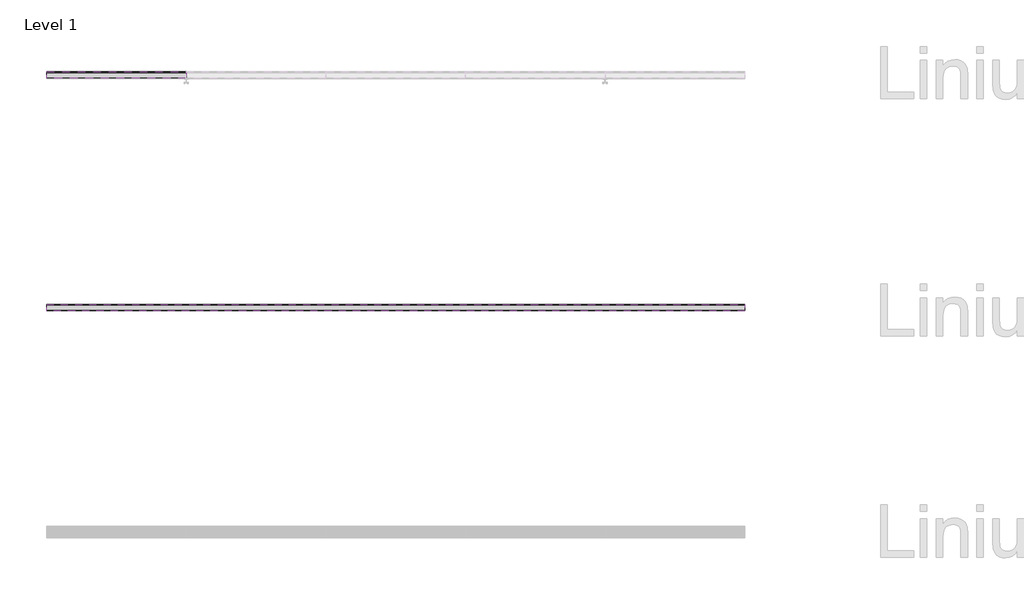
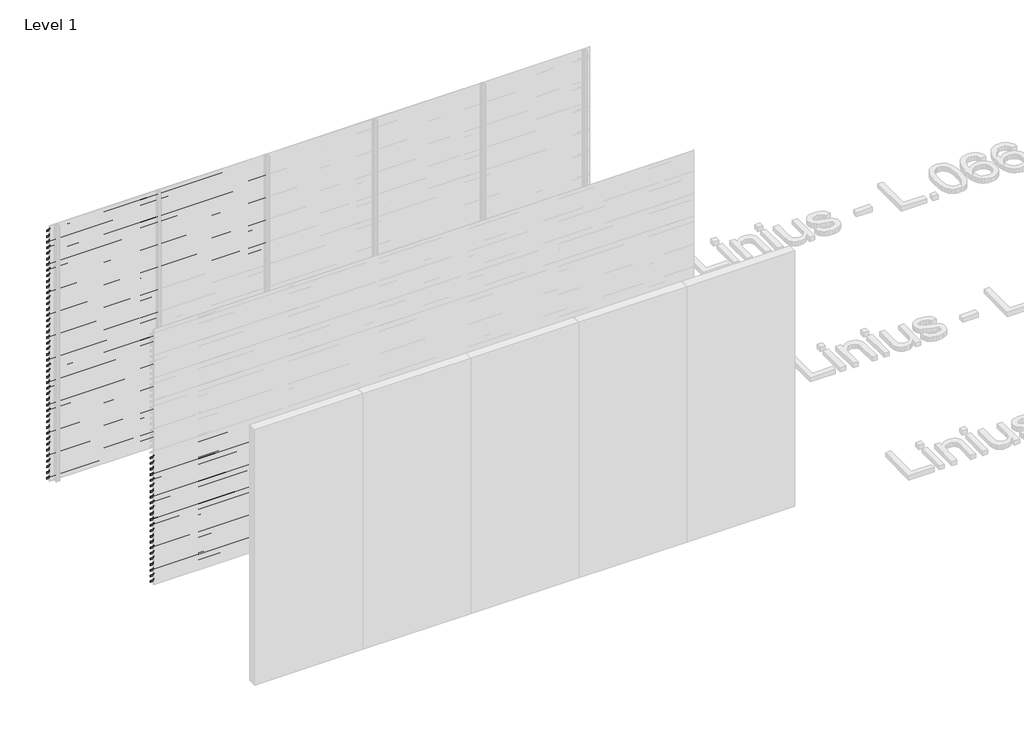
# One storey, part 31 of 540: 85 proxies.
"""IFC4 building model written with IfcOpenShell, lengths in millimetres."""

from ifc_helpers import new_model, si_unit, frame, origin, place, context, project, spatial, polyline, outline, extrude, element, save

model = new_model("IFC4")

# Units and contexts
model_context = context("Model", 3, world=origin())
ifc_project = project(units=[si_unit("LENGTHUNIT", "METRE", prefix="MILLI")], contexts=[model_context])

# Site, building, storey
site = spatial("IfcSite", under=ifc_project)
building = spatial("IfcBuilding", under=site)
storey = spatial("IfcBuildingStorey", under=building, Name="Level 1", Elevation=0.0)

# Proxies
placement = place(None, origin())
element("IfcBuildingElementProxy", 1, Name="Wall Sweeps", at=placement, inside=storey, context=model_context, shape_type="SweptSolid", body=[
    extrude(outline(polyline([(21581.0540136, 2913.5), (21581.0540136, 2893.5), (21579.8040136, 2894.2216933), (21579.8040136, 2912.7872415), (21526.0540136, 2950.3158044), (21526.0540136, 2970.0), (21527.3040136, 2970.0), (21527.3040136, 2951.0285629), (21581.0540136, 2913.5)])), frame((466.6208097, 0.0, 0.0), z_axis=(1.0, 0.0, 0.0), x_axis=(0.0, 1.0, 0.0)), (0.0, 0.0, 1.0), 1200.0000002),
])
element("IfcBuildingElementProxy", 2, Name="Wall Sweeps", at=placement, inside=storey, context=model_context, shape_type="SweptSolid", body=[
    extrude(outline(polyline([(21581.0540136, 2847.5), (21581.0540136, 2827.5), (21579.8040136, 2828.2216933), (21579.8040136, 2846.7872415), (21526.0540136, 2884.3158044), (21526.0540136, 2904.0), (21527.3040136, 2904.0), (21527.3040136, 2885.0285629), (21581.0540136, 2847.5)])), frame((466.6208097, 0.0, 0.0), z_axis=(1.0, 0.0, 0.0), x_axis=(0.0, 1.0, 0.0)), (0.0, 0.0, 1.0), 1200.0000002),
])
element("IfcBuildingElementProxy", 3, Name="Wall Sweeps", at=placement, inside=storey, context=model_context, shape_type="SweptSolid", body=[
    extrude(outline(polyline([(21581.0540136, 2781.5), (21581.0540136, 2761.5), (21579.8040136, 2762.2216933), (21579.8040136, 2780.7872415), (21526.0540136, 2818.3158044), (21526.0540136, 2838.0), (21527.3040136, 2838.0), (21527.3040136, 2819.0285629), (21581.0540136, 2781.5)])), frame((466.6208097, 0.0, 0.0), z_axis=(1.0, 0.0, 0.0), x_axis=(0.0, 1.0, 0.0)), (0.0, 0.0, 1.0), 1200.0000002),
])
element("IfcBuildingElementProxy", 4, Name="Wall Sweeps", at=placement, inside=storey, context=model_context, shape_type="SweptSolid", body=[
    extrude(outline(polyline([(21581.0540136, 2715.5), (21581.0540136, 2695.5), (21579.8040136, 2696.2216933), (21579.8040136, 2714.7872415), (21526.0540136, 2752.3158044), (21526.0540136, 2772.0), (21527.3040136, 2772.0), (21527.3040136, 2753.0285629), (21581.0540136, 2715.5)])), frame((466.6208097, 0.0, 0.0), z_axis=(1.0, 0.0, 0.0), x_axis=(0.0, 1.0, 0.0)), (0.0, 0.0, 1.0), 1200.0000002),
])
element("IfcBuildingElementProxy", 5, Name="Wall Sweeps", at=placement, inside=storey, context=model_context, shape_type="SweptSolid", body=[
    extrude(outline(polyline([(21581.0540136, 2649.5), (21581.0540136, 2629.5), (21579.8040136, 2630.2216933), (21579.8040136, 2648.7872415), (21526.0540136, 2686.3158044), (21526.0540136, 2706.0), (21527.3040136, 2706.0), (21527.3040136, 2687.0285629), (21581.0540136, 2649.5)])), frame((466.6208097, 0.0, 0.0), z_axis=(1.0, 0.0, 0.0), x_axis=(0.0, 1.0, 0.0)), (0.0, 0.0, 1.0), 1200.0000002),
])
element("IfcBuildingElementProxy", 6, Name="Wall Sweeps", at=placement, inside=storey, context=model_context, shape_type="SweptSolid", body=[
    extrude(outline(polyline([(21581.0540136, 2583.5), (21581.0540136, 2563.5), (21579.8040136, 2564.2216933), (21579.8040136, 2582.7872415), (21526.0540136, 2620.3158044), (21526.0540136, 2640.0), (21527.3040136, 2640.0), (21527.3040136, 2621.0285629), (21581.0540136, 2583.5)])), frame((466.6208097, 0.0, 0.0), z_axis=(1.0, 0.0, 0.0), x_axis=(0.0, 1.0, 0.0)), (0.0, 0.0, 1.0), 1200.0000002),
])
element("IfcBuildingElementProxy", 7, Name="Wall Sweeps", at=placement, inside=storey, context=model_context, shape_type="SweptSolid", body=[
    extrude(outline(polyline([(21581.0540136, 2517.5), (21581.0540136, 2497.5), (21579.8040136, 2498.2216933), (21579.8040136, 2516.7872415), (21526.0540136, 2554.3158044), (21526.0540136, 2574.0), (21527.3040136, 2574.0), (21527.3040136, 2555.0285629), (21581.0540136, 2517.5)])), frame((466.6208097, 0.0, 0.0), z_axis=(1.0, 0.0, 0.0), x_axis=(0.0, 1.0, 0.0)), (0.0, 0.0, 1.0), 1200.0000002),
])
element("IfcBuildingElementProxy", 8, Name="Wall Sweeps", at=placement, inside=storey, context=model_context, shape_type="SweptSolid", body=[
    extrude(outline(polyline([(21581.0540136, 2451.5), (21581.0540136, 2431.5), (21579.8040136, 2432.2216933), (21579.8040136, 2450.7872415), (21526.0540136, 2488.3158044), (21526.0540136, 2508.0), (21527.3040136, 2508.0), (21527.3040136, 2489.0285629), (21581.0540136, 2451.5)])), frame((466.6208097, 0.0, 0.0), z_axis=(1.0, 0.0, 0.0), x_axis=(0.0, 1.0, 0.0)), (0.0, 0.0, 1.0), 1200.0000002),
])
element("IfcBuildingElementProxy", 9, Name="Wall Sweeps", at=placement, inside=storey, context=model_context, shape_type="SweptSolid", body=[
    extrude(outline(polyline([(21581.0540136, 2385.5), (21581.0540136, 2365.5), (21579.8040136, 2366.2216933), (21579.8040136, 2384.7872415), (21526.0540136, 2422.3158044), (21526.0540136, 2442.0), (21527.3040136, 2442.0), (21527.3040136, 2423.0285629), (21581.0540136, 2385.5)])), frame((466.6208097, 0.0, 0.0), z_axis=(1.0, 0.0, 0.0), x_axis=(0.0, 1.0, 0.0)), (0.0, 0.0, 1.0), 1200.0000002),
])
element("IfcBuildingElementProxy", 10, Name="Wall Sweeps", at=placement, inside=storey, context=model_context, shape_type="SweptSolid", body=[
    extrude(outline(polyline([(21581.0540136, 2319.5), (21581.0540136, 2299.5), (21579.8040136, 2300.2216933), (21579.8040136, 2318.7872415), (21526.0540136, 2356.3158044), (21526.0540136, 2376.0), (21527.3040136, 2376.0), (21527.3040136, 2357.0285629), (21581.0540136, 2319.5)])), frame((466.6208097, 0.0, 0.0), z_axis=(1.0, 0.0, 0.0), x_axis=(0.0, 1.0, 0.0)), (0.0, 0.0, 1.0), 1200.0000002),
])
element("IfcBuildingElementProxy", 11, Name="Wall Sweeps", at=placement, inside=storey, context=model_context, shape_type="SweptSolid", body=[
    extrude(outline(polyline([(21581.0540136, 2253.5), (21581.0540136, 2233.5), (21579.8040136, 2234.2216933), (21579.8040136, 2252.7872415), (21526.0540136, 2290.3158044), (21526.0540136, 2310.0), (21527.3040136, 2310.0), (21527.3040136, 2291.0285629), (21581.0540136, 2253.5)])), frame((466.6208097, 0.0, 0.0), z_axis=(1.0, 0.0, 0.0), x_axis=(0.0, 1.0, 0.0)), (0.0, 0.0, 1.0), 1200.0000002),
])
element("IfcBuildingElementProxy", 12, Name="Wall Sweeps", at=placement, inside=storey, context=model_context, shape_type="SweptSolid", body=[
    extrude(outline(polyline([(21581.0540136, 2187.5), (21581.0540136, 2167.5), (21579.8040136, 2168.2216933), (21579.8040136, 2186.7872415), (21526.0540136, 2224.3158044), (21526.0540136, 2244.0), (21527.3040136, 2244.0), (21527.3040136, 2225.0285629), (21581.0540136, 2187.5)])), frame((466.6208097, 0.0, 0.0), z_axis=(1.0, 0.0, 0.0), x_axis=(0.0, 1.0, 0.0)), (0.0, 0.0, 1.0), 1200.0000002),
])
element("IfcBuildingElementProxy", 13, Name="Wall Sweeps", at=placement, inside=storey, context=model_context, shape_type="SweptSolid", body=[
    extrude(outline(polyline([(21581.0540136, 2121.5), (21581.0540136, 2101.5), (21579.8040136, 2102.2216933), (21579.8040136, 2120.7872415), (21526.0540136, 2158.3158044), (21526.0540136, 2178.0), (21527.3040136, 2178.0), (21527.3040136, 2159.0285629), (21581.0540136, 2121.5)])), frame((466.6208097, 0.0, 0.0), z_axis=(1.0, 0.0, 0.0), x_axis=(0.0, 1.0, 0.0)), (0.0, 0.0, 1.0), 1200.0000002),
])
element("IfcBuildingElementProxy", 14, Name="Wall Sweeps", at=placement, inside=storey, context=model_context, shape_type="SweptSolid", body=[
    extrude(outline(polyline([(21581.0540136, 2055.5), (21581.0540136, 2035.5), (21579.8040136, 2036.2216933), (21579.8040136, 2054.7872415), (21526.0540136, 2092.3158044), (21526.0540136, 2112.0), (21527.3040136, 2112.0), (21527.3040136, 2093.0285629), (21581.0540136, 2055.5)])), frame((466.6208097, 0.0, 0.0), z_axis=(1.0, 0.0, 0.0), x_axis=(0.0, 1.0, 0.0)), (0.0, 0.0, 1.0), 1200.0000002),
])
element("IfcBuildingElementProxy", 15, Name="Wall Sweeps", at=placement, inside=storey, context=model_context, shape_type="SweptSolid", body=[
    extrude(outline(polyline([(21581.0540136, 1989.5), (21581.0540136, 1969.5), (21579.8040136, 1970.2216933), (21579.8040136, 1988.7872415), (21526.0540136, 2026.3158044), (21526.0540136, 2046.0), (21527.3040136, 2046.0), (21527.3040136, 2027.0285629), (21581.0540136, 1989.5)])), frame((466.6208097, 0.0, 0.0), z_axis=(1.0, 0.0, 0.0), x_axis=(0.0, 1.0, 0.0)), (0.0, 0.0, 1.0), 1200.0000002),
])
element("IfcBuildingElementProxy", 16, Name="Wall Sweeps", at=placement, inside=storey, context=model_context, shape_type="SweptSolid", body=[
    extrude(outline(polyline([(21581.0540136, 1923.5), (21581.0540136, 1903.5), (21579.8040136, 1904.2216933), (21579.8040136, 1922.7872415), (21526.0540136, 1960.3158044), (21526.0540136, 1980.0), (21527.3040136, 1980.0), (21527.3040136, 1961.0285629), (21581.0540136, 1923.5)])), frame((466.6208097, 0.0, 0.0), z_axis=(1.0, 0.0, 0.0), x_axis=(0.0, 1.0, 0.0)), (0.0, 0.0, 1.0), 1200.0000002),
])
element("IfcBuildingElementProxy", 17, Name="Wall Sweeps", at=placement, inside=storey, context=model_context, shape_type="SweptSolid", body=[
    extrude(outline(polyline([(21581.0540136, 1857.5), (21581.0540136, 1837.5), (21579.8040136, 1838.2216933), (21579.8040136, 1856.7872415), (21526.0540136, 1894.3158044), (21526.0540136, 1914.0), (21527.3040136, 1914.0), (21527.3040136, 1895.0285629), (21581.0540136, 1857.5)])), frame((466.6208097, 0.0, 0.0), z_axis=(1.0, 0.0, 0.0), x_axis=(0.0, 1.0, 0.0)), (0.0, 0.0, 1.0), 1200.0000002),
])
element("IfcBuildingElementProxy", 18, Name="Wall Sweeps", at=placement, inside=storey, context=model_context, shape_type="SweptSolid", body=[
    extrude(outline(polyline([(21581.0540136, 1791.5), (21581.0540136, 1771.5), (21579.8040136, 1772.2216933), (21579.8040136, 1790.7872415), (21526.0540136, 1828.3158044), (21526.0540136, 1848.0), (21527.3040136, 1848.0), (21527.3040136, 1829.0285629), (21581.0540136, 1791.5)])), frame((466.6208097, 0.0, 0.0), z_axis=(1.0, 0.0, 0.0), x_axis=(0.0, 1.0, 0.0)), (0.0, 0.0, 1.0), 1200.0000002),
])
element("IfcBuildingElementProxy", 19, Name="Wall Sweeps", at=placement, inside=storey, context=model_context, shape_type="SweptSolid", body=[
    extrude(outline(polyline([(21581.0540136, 1725.5), (21581.0540136, 1705.5), (21579.8040136, 1706.2216933), (21579.8040136, 1724.7872415), (21526.0540136, 1762.3158044), (21526.0540136, 1782.0), (21527.3040136, 1782.0), (21527.3040136, 1763.0285629), (21581.0540136, 1725.5)])), frame((466.6208097, 0.0, 0.0), z_axis=(1.0, 0.0, 0.0), x_axis=(0.0, 1.0, 0.0)), (0.0, 0.0, 1.0), 1200.0000002),
])
element("IfcBuildingElementProxy", 20, Name="Wall Sweeps", at=placement, inside=storey, context=model_context, shape_type="SweptSolid", body=[
    extrude(outline(polyline([(21581.0540136, 1659.5), (21581.0540136, 1639.5), (21579.8040136, 1640.2216933), (21579.8040136, 1658.7872415), (21526.0540136, 1696.3158044), (21526.0540136, 1716.0), (21527.3040136, 1716.0), (21527.3040136, 1697.0285629), (21581.0540136, 1659.5)])), frame((466.6208097, 0.0, 0.0), z_axis=(1.0, 0.0, 0.0), x_axis=(0.0, 1.0, 0.0)), (0.0, 0.0, 1.0), 1200.0000002),
])
element("IfcBuildingElementProxy", 21, Name="Wall Sweeps", at=placement, inside=storey, context=model_context, shape_type="SweptSolid", body=[
    extrude(outline(polyline([(21581.0540136, 1593.5), (21581.0540136, 1573.5), (21579.8040136, 1574.2216933), (21579.8040136, 1592.7872415), (21526.0540136, 1630.3158044), (21526.0540136, 1650.0), (21527.3040136, 1650.0), (21527.3040136, 1631.0285629), (21581.0540136, 1593.5)])), frame((466.6208097, 0.0, 0.0), z_axis=(1.0, 0.0, 0.0), x_axis=(0.0, 1.0, 0.0)), (0.0, 0.0, 1.0), 1200.0000002),
])
element("IfcBuildingElementProxy", 22, Name="Wall Sweeps", at=placement, inside=storey, context=model_context, shape_type="SweptSolid", body=[
    extrude(outline(polyline([(21581.0540136, 1527.5), (21581.0540136, 1507.5), (21579.8040136, 1508.2216933), (21579.8040136, 1526.7872415), (21526.0540136, 1564.3158044), (21526.0540136, 1584.0), (21527.3040136, 1584.0), (21527.3040136, 1565.0285629), (21581.0540136, 1527.5)])), frame((466.6208097, 0.0, 0.0), z_axis=(1.0, 0.0, 0.0), x_axis=(0.0, 1.0, 0.0)), (0.0, 0.0, 1.0), 1200.0000002),
])
element("IfcBuildingElementProxy", 23, Name="Wall Sweeps", at=placement, inside=storey, context=model_context, shape_type="SweptSolid", body=[
    extrude(outline(polyline([(21581.0540136, 1461.5), (21581.0540136, 1441.5), (21579.8040136, 1442.2216933), (21579.8040136, 1460.7872415), (21526.0540136, 1498.3158044), (21526.0540136, 1518.0), (21527.3040136, 1518.0), (21527.3040136, 1499.0285629), (21581.0540136, 1461.5)])), frame((466.6208097, 0.0, 0.0), z_axis=(1.0, 0.0, 0.0), x_axis=(0.0, 1.0, 0.0)), (0.0, 0.0, 1.0), 1200.0000002),
])
element("IfcBuildingElementProxy", 24, Name="Wall Sweeps", at=placement, inside=storey, context=model_context, shape_type="SweptSolid", body=[
    extrude(outline(polyline([(21581.0540136, 1395.5), (21581.0540136, 1375.5), (21579.8040136, 1376.2216933), (21579.8040136, 1394.7872415), (21526.0540136, 1432.3158044), (21526.0540136, 1452.0), (21527.3040136, 1452.0), (21527.3040136, 1433.0285629), (21581.0540136, 1395.5)])), frame((466.6208097, 0.0, 0.0), z_axis=(1.0, 0.0, 0.0), x_axis=(0.0, 1.0, 0.0)), (0.0, 0.0, 1.0), 1200.0000002),
])
element("IfcBuildingElementProxy", 25, Name="Wall Sweeps", at=placement, inside=storey, context=model_context, shape_type="SweptSolid", body=[
    extrude(outline(polyline([(21581.0540136, 1329.5), (21581.0540136, 1309.5), (21579.8040136, 1310.2216933), (21579.8040136, 1328.7872415), (21526.0540136, 1366.3158044), (21526.0540136, 1386.0), (21527.3040136, 1386.0), (21527.3040136, 1367.0285629), (21581.0540136, 1329.5)])), frame((466.6208097, 0.0, 0.0), z_axis=(1.0, 0.0, 0.0), x_axis=(0.0, 1.0, 0.0)), (0.0, 0.0, 1.0), 1200.0000002),
])
element("IfcBuildingElementProxy", 26, Name="Wall Sweeps", at=placement, inside=storey, context=model_context, shape_type="SweptSolid", body=[
    extrude(outline(polyline([(21581.0540136, 1263.5), (21581.0540136, 1243.5), (21579.8040136, 1244.2216933), (21579.8040136, 1262.7872415), (21526.0540136, 1300.3158044), (21526.0540136, 1320.0), (21527.3040136, 1320.0), (21527.3040136, 1301.0285629), (21581.0540136, 1263.5)])), frame((466.6208097, 0.0, 0.0), z_axis=(1.0, 0.0, 0.0), x_axis=(0.0, 1.0, 0.0)), (0.0, 0.0, 1.0), 1200.0000002),
])
element("IfcBuildingElementProxy", 27, Name="Wall Sweeps", at=placement, inside=storey, context=model_context, shape_type="SweptSolid", body=[
    extrude(outline(polyline([(21581.0540136, 1197.5), (21581.0540136, 1177.5), (21579.8040136, 1178.2216933), (21579.8040136, 1196.7872415), (21526.0540136, 1234.3158044), (21526.0540136, 1254.0), (21527.3040136, 1254.0), (21527.3040136, 1235.0285629), (21581.0540136, 1197.5)])), frame((466.6208097, 0.0, 0.0), z_axis=(1.0, 0.0, 0.0), x_axis=(0.0, 1.0, 0.0)), (0.0, 0.0, 1.0), 1200.0000002),
])
element("IfcBuildingElementProxy", 28, Name="Wall Sweeps", at=placement, inside=storey, context=model_context, shape_type="SweptSolid", body=[
    extrude(outline(polyline([(21581.0540136, 1131.5), (21581.0540136, 1111.5), (21579.8040136, 1112.2216933), (21579.8040136, 1130.7872415), (21526.0540136, 1168.3158044), (21526.0540136, 1188.0), (21527.3040136, 1188.0), (21527.3040136, 1169.0285629), (21581.0540136, 1131.5)])), frame((466.6208097, 0.0, 0.0), z_axis=(1.0, 0.0, 0.0), x_axis=(0.0, 1.0, 0.0)), (0.0, 0.0, 1.0), 1200.0000002),
])
element("IfcBuildingElementProxy", 29, Name="Wall Sweeps", at=placement, inside=storey, context=model_context, shape_type="SweptSolid", body=[
    extrude(outline(polyline([(21581.0540136, 1065.5), (21581.0540136, 1045.5), (21579.8040136, 1046.2216933), (21579.8040136, 1064.7872415), (21526.0540136, 1102.3158044), (21526.0540136, 1122.0), (21527.3040136, 1122.0), (21527.3040136, 1103.0285629), (21581.0540136, 1065.5)])), frame((466.6208097, 0.0, 0.0), z_axis=(1.0, 0.0, 0.0), x_axis=(0.0, 1.0, 0.0)), (0.0, 0.0, 1.0), 1200.0000002),
])
element("IfcBuildingElementProxy", 30, Name="Wall Sweeps", at=placement, inside=storey, context=model_context, shape_type="SweptSolid", body=[
    extrude(outline(polyline([(21581.0540136, 999.5), (21581.0540136, 979.5), (21579.8040136, 980.2216933), (21579.8040136, 998.7872415), (21526.0540136, 1036.3158044), (21526.0540136, 1056.0), (21527.3040136, 1056.0), (21527.3040136, 1037.0285629), (21581.0540136, 999.5)])), frame((466.6208097, 0.0, 0.0), z_axis=(1.0, 0.0, 0.0), x_axis=(0.0, 1.0, 0.0)), (0.0, 0.0, 1.0), 1200.0000002),
])
element("IfcBuildingElementProxy", 31, Name="Wall Sweeps", at=placement, inside=storey, context=model_context, shape_type="SweptSolid", body=[
    extrude(outline(polyline([(21581.0540136, 933.5), (21581.0540136, 913.5), (21579.8040136, 914.2216933), (21579.8040136, 932.7872415), (21526.0540136, 970.3158044), (21526.0540136, 990.0), (21527.3040136, 990.0), (21527.3040136, 971.0285629), (21581.0540136, 933.5)])), frame((466.6208097, 0.0, 0.0), z_axis=(1.0, 0.0, 0.0), x_axis=(0.0, 1.0, 0.0)), (0.0, 0.0, 1.0), 1200.0000002),
])
element("IfcBuildingElementProxy", 32, Name="Wall Sweeps", at=placement, inside=storey, context=model_context, shape_type="SweptSolid", body=[
    extrude(outline(polyline([(21581.0540136, 867.5), (21581.0540136, 847.5), (21579.8040136, 848.2216933), (21579.8040136, 866.7872415), (21526.0540136, 904.3158044), (21526.0540136, 924.0), (21527.3040136, 924.0), (21527.3040136, 905.0285629), (21581.0540136, 867.5)])), frame((466.6208097, 0.0, 0.0), z_axis=(1.0, 0.0, 0.0), x_axis=(0.0, 1.0, 0.0)), (0.0, 0.0, 1.0), 1200.0000002),
])
element("IfcBuildingElementProxy", 33, Name="Wall Sweeps", at=placement, inside=storey, context=model_context, shape_type="SweptSolid", body=[
    extrude(outline(polyline([(21581.0540136, 801.5), (21581.0540136, 781.5), (21579.8040136, 782.2216933), (21579.8040136, 800.7872415), (21526.0540136, 838.3158044), (21526.0540136, 858.0), (21527.3040136, 858.0), (21527.3040136, 839.0285629), (21581.0540136, 801.5)])), frame((466.6208097, 0.0, 0.0), z_axis=(1.0, 0.0, 0.0), x_axis=(0.0, 1.0, 0.0)), (0.0, 0.0, 1.0), 1200.0000002),
])
element("IfcBuildingElementProxy", 34, Name="Wall Sweeps", at=placement, inside=storey, context=model_context, shape_type="SweptSolid", body=[
    extrude(outline(polyline([(21581.0540136, 735.5), (21581.0540136, 715.5), (21579.8040136, 716.2216933), (21579.8040136, 734.7872415), (21526.0540136, 772.3158044), (21526.0540136, 792.0), (21527.3040136, 792.0), (21527.3040136, 773.0285629), (21581.0540136, 735.5)])), frame((466.6208097, 0.0, 0.0), z_axis=(1.0, 0.0, 0.0), x_axis=(0.0, 1.0, 0.0)), (0.0, 0.0, 1.0), 1200.0000002),
])
element("IfcBuildingElementProxy", 35, Name="Wall Sweeps", at=placement, inside=storey, context=model_context, shape_type="SweptSolid", body=[
    extrude(outline(polyline([(21581.0540136, 669.5), (21581.0540136, 649.5), (21579.8040136, 650.2216933), (21579.8040136, 668.7872415), (21526.0540136, 706.3158044), (21526.0540136, 726.0), (21527.3040136, 726.0), (21527.3040136, 707.0285629), (21581.0540136, 669.5)])), frame((466.6208097, 0.0, 0.0), z_axis=(1.0, 0.0, 0.0), x_axis=(0.0, 1.0, 0.0)), (0.0, 0.0, 1.0), 1200.0000002),
])
element("IfcBuildingElementProxy", 36, Name="Wall Sweeps", at=placement, inside=storey, context=model_context, shape_type="SweptSolid", body=[
    extrude(outline(polyline([(21581.0540136, 603.5), (21581.0540136, 583.5), (21579.8040136, 584.2216933), (21579.8040136, 602.7872415), (21526.0540136, 640.3158044), (21526.0540136, 660.0), (21527.3040136, 660.0), (21527.3040136, 641.0285629), (21581.0540136, 603.5)])), frame((466.6208097, 0.0, 0.0), z_axis=(1.0, 0.0, 0.0), x_axis=(0.0, 1.0, 0.0)), (0.0, 0.0, 1.0), 1200.0000002),
])
element("IfcBuildingElementProxy", 37, Name="Wall Sweeps", at=placement, inside=storey, context=model_context, shape_type="SweptSolid", body=[
    extrude(outline(polyline([(21581.0540136, 537.5), (21581.0540136, 517.5), (21579.8040136, 518.2216933), (21579.8040136, 536.7872415), (21526.0540136, 574.3158044), (21526.0540136, 594.0), (21527.3040136, 594.0), (21527.3040136, 575.0285629), (21581.0540136, 537.5)])), frame((466.6208097, 0.0, 0.0), z_axis=(1.0, 0.0, 0.0), x_axis=(0.0, 1.0, 0.0)), (0.0, 0.0, 1.0), 1200.0000002),
])
element("IfcBuildingElementProxy", 38, Name="Wall Sweeps", at=placement, inside=storey, context=model_context, shape_type="SweptSolid", body=[
    extrude(outline(polyline([(21581.0540136, 471.5), (21581.0540136, 451.5), (21579.8040136, 452.2216933), (21579.8040136, 470.7872415), (21526.0540136, 508.3158044), (21526.0540136, 528.0), (21527.3040136, 528.0), (21527.3040136, 509.0285629), (21581.0540136, 471.5)])), frame((466.6208097, 0.0, 0.0), z_axis=(1.0, 0.0, 0.0), x_axis=(0.0, 1.0, 0.0)), (0.0, 0.0, 1.0), 1200.0000002),
])
element("IfcBuildingElementProxy", 39, Name="Wall Sweeps", at=placement, inside=storey, context=model_context, shape_type="SweptSolid", body=[
    extrude(outline(polyline([(21581.0540136, 405.5), (21581.0540136, 385.5), (21579.8040136, 386.2216933), (21579.8040136, 404.7872415), (21526.0540136, 442.3158044), (21526.0540136, 462.0), (21527.3040136, 462.0), (21527.3040136, 443.0285629), (21581.0540136, 405.5)])), frame((466.6208097, 0.0, 0.0), z_axis=(1.0, 0.0, 0.0), x_axis=(0.0, 1.0, 0.0)), (0.0, 0.0, 1.0), 1200.0000002),
])
element("IfcBuildingElementProxy", 40, Name="Wall Sweeps", at=placement, inside=storey, context=model_context, shape_type="SweptSolid", body=[
    extrude(outline(polyline([(21581.0540136, 339.5), (21581.0540136, 319.5), (21579.8040136, 320.2216933), (21579.8040136, 338.7872415), (21526.0540136, 376.3158044), (21526.0540136, 396.0), (21527.3040136, 396.0), (21527.3040136, 377.0285629), (21581.0540136, 339.5)])), frame((466.6208097, 0.0, 0.0), z_axis=(1.0, 0.0, 0.0), x_axis=(0.0, 1.0, 0.0)), (0.0, 0.0, 1.0), 1200.0000002),
])
element("IfcBuildingElementProxy", 41, Name="Wall Sweeps", at=placement, inside=storey, context=model_context, shape_type="SweptSolid", body=[
    extrude(outline(polyline([(21581.0540136, 273.5), (21581.0540136, 253.5), (21579.8040136, 254.2216933), (21579.8040136, 272.7872415), (21526.0540136, 310.3158044), (21526.0540136, 330.0), (21527.3040136, 330.0), (21527.3040136, 311.0285629), (21581.0540136, 273.5)])), frame((466.6208097, 0.0, 0.0), z_axis=(1.0, 0.0, 0.0), x_axis=(0.0, 1.0, 0.0)), (0.0, 0.0, 1.0), 1200.0000002),
])
element("IfcBuildingElementProxy", 42, Name="Wall Sweeps", at=placement, inside=storey, context=model_context, shape_type="SweptSolid", body=[
    extrude(outline(polyline([(21581.0540136, 207.5), (21581.0540136, 187.5), (21579.8040136, 188.2216933), (21579.8040136, 206.7872415), (21526.0540136, 244.3158044), (21526.0540136, 264.0), (21527.3040136, 264.0), (21527.3040136, 245.0285629), (21581.0540136, 207.5)])), frame((466.6208097, 0.0, 0.0), z_axis=(1.0, 0.0, 0.0), x_axis=(0.0, 1.0, 0.0)), (0.0, 0.0, 1.0), 1200.0000002),
])
element("IfcBuildingElementProxy", 43, Name="Wall Sweeps", at=placement, inside=storey, context=model_context, shape_type="SweptSolid", body=[
    extrude(outline(polyline([(21581.0540136, 141.5), (21581.0540136, 121.5), (21579.8040136, 122.2216933), (21579.8040136, 140.7872415), (21526.0540136, 178.3158044), (21526.0540136, 198.0), (21527.3040136, 198.0), (21527.3040136, 179.0285629), (21581.0540136, 141.5)])), frame((466.6208097, 0.0, 0.0), z_axis=(1.0, 0.0, 0.0), x_axis=(0.0, 1.0, 0.0)), (0.0, 0.0, 1.0), 1200.0000002),
])
element("IfcBuildingElementProxy", 44, Name="Wall Sweeps", at=placement, inside=storey, context=model_context, shape_type="SweptSolid", body=[
    extrude(outline(polyline([(21581.0540136, 75.5), (21581.0540136, 55.5), (21579.8040136, 56.2216933), (21579.8040136, 74.7872415), (21526.0540136, 112.3158044), (21526.0540136, 132.0), (21527.3040136, 132.0), (21527.3040136, 113.0285629), (21581.0540136, 75.5)])), frame((466.6208097, 0.0, 0.0), z_axis=(1.0, 0.0, 0.0), x_axis=(0.0, 1.0, 0.0)), (0.0, 0.0, 1.0), 1200.0000002),
])
element("IfcBuildingElementProxy", 45, Name="Wall Sweeps", at=placement, inside=storey, context=model_context, shape_type="SweptSolid", body=[
    extrude(outline(polyline([(21581.0540136, 9.5), (21581.0540136, -10.5), (21579.8040136, -9.7783067), (21579.8040136, 8.7872415), (21526.0540136, 46.3158044), (21526.0540136, 66.0), (21527.3040136, 66.0), (21527.3040136, 47.0285629), (21581.0540136, 9.5)])), frame((466.6208097, 0.0, 0.0), z_axis=(1.0, 0.0, 0.0), x_axis=(0.0, 1.0, 0.0)), (0.0, 0.0, 1.0), 1200.0000002),
])
element("IfcBuildingElementProxy", 46, Name="Wall Sweeps", at=placement, inside=storey, context=model_context, shape_type="SweptSolid", body=[
    extrude(outline(polyline([(21581.0540136, 2913.5), (21581.0540136, 2893.5), (21579.8040136, 2894.2216933), (21579.8040136, 2912.7872415), (21526.0540136, 2950.3158044), (21526.0540136, 2970.0), (21527.3040136, 2970.0), (21527.3040136, 2951.0285629), (21581.0540136, 2913.5)])), frame((1666.6208099, 0.0, 0.0), z_axis=(1.0, 0.0, 0.0), x_axis=(0.0, 1.0, 0.0)), (0.0, 0.0, 1.0), 1199.9999999),
])
element("IfcBuildingElementProxy", 47, Name="Wall Sweeps", at=placement, inside=storey, context=model_context, shape_type="SweptSolid", body=[
    extrude(outline(polyline([(21581.0540136, 2847.5), (21581.0540136, 2827.5), (21579.8040136, 2828.2216933), (21579.8040136, 2846.7872415), (21526.0540136, 2884.3158044), (21526.0540136, 2904.0), (21527.3040136, 2904.0), (21527.3040136, 2885.0285629), (21581.0540136, 2847.5)])), frame((1666.6208099, 0.0, 0.0), z_axis=(1.0, 0.0, 0.0), x_axis=(0.0, 1.0, 0.0)), (0.0, 0.0, 1.0), 1199.9999999),
])
element("IfcBuildingElementProxy", 48, Name="Wall Sweeps", at=placement, inside=storey, context=model_context, shape_type="SweptSolid", body=[
    extrude(outline(polyline([(21581.0540136, 2781.5), (21581.0540136, 2761.5), (21579.8040136, 2762.2216933), (21579.8040136, 2780.7872415), (21526.0540136, 2818.3158044), (21526.0540136, 2838.0), (21527.3040136, 2838.0), (21527.3040136, 2819.0285629), (21581.0540136, 2781.5)])), frame((1666.6208099, 0.0, 0.0), z_axis=(1.0, 0.0, 0.0), x_axis=(0.0, 1.0, 0.0)), (0.0, 0.0, 1.0), 1199.9999999),
])
element("IfcBuildingElementProxy", 49, Name="Wall Sweeps", at=placement, inside=storey, context=model_context, shape_type="SweptSolid", body=[
    extrude(outline(polyline([(21581.0540136, 2715.5), (21581.0540136, 2695.5), (21579.8040136, 2696.2216933), (21579.8040136, 2714.7872415), (21526.0540136, 2752.3158044), (21526.0540136, 2772.0), (21527.3040136, 2772.0), (21527.3040136, 2753.0285629), (21581.0540136, 2715.5)])), frame((1666.6208099, 0.0, 0.0), z_axis=(1.0, 0.0, 0.0), x_axis=(0.0, 1.0, 0.0)), (0.0, 0.0, 1.0), 1199.9999999),
])
element("IfcBuildingElementProxy", 50, Name="Wall Sweeps", at=placement, inside=storey, context=model_context, shape_type="SweptSolid", body=[
    extrude(outline(polyline([(21581.0540136, 2649.5), (21581.0540136, 2629.5), (21579.8040136, 2630.2216933), (21579.8040136, 2648.7872415), (21526.0540136, 2686.3158044), (21526.0540136, 2706.0), (21527.3040136, 2706.0), (21527.3040136, 2687.0285629), (21581.0540136, 2649.5)])), frame((1666.6208099, 0.0, 0.0), z_axis=(1.0, 0.0, 0.0), x_axis=(0.0, 1.0, 0.0)), (0.0, 0.0, 1.0), 1199.9999999),
])
element("IfcBuildingElementProxy", 51, Name="Wall Sweeps", at=placement, inside=storey, context=model_context, shape_type="SweptSolid", body=[
    extrude(outline(polyline([(21581.0540136, 2583.5), (21581.0540136, 2563.5), (21579.8040136, 2564.2216933), (21579.8040136, 2582.7872415), (21526.0540136, 2620.3158044), (21526.0540136, 2640.0), (21527.3040136, 2640.0), (21527.3040136, 2621.0285629), (21581.0540136, 2583.5)])), frame((1666.6208099, 0.0, 0.0), z_axis=(1.0, 0.0, 0.0), x_axis=(0.0, 1.0, 0.0)), (0.0, 0.0, 1.0), 1199.9999999),
])
element("IfcBuildingElementProxy", 52, Name="Wall Sweeps", at=placement, inside=storey, context=model_context, shape_type="SweptSolid", body=[
    extrude(outline(polyline([(21581.0540136, 2517.5), (21581.0540136, 2497.5), (21579.8040136, 2498.2216933), (21579.8040136, 2516.7872415), (21526.0540136, 2554.3158044), (21526.0540136, 2574.0), (21527.3040136, 2574.0), (21527.3040136, 2555.0285629), (21581.0540136, 2517.5)])), frame((1666.6208099, 0.0, 0.0), z_axis=(1.0, 0.0, 0.0), x_axis=(0.0, 1.0, 0.0)), (0.0, 0.0, 1.0), 1199.9999999),
])
element("IfcBuildingElementProxy", 53, Name="Wall Sweeps", at=placement, inside=storey, context=model_context, shape_type="SweptSolid", body=[
    extrude(outline(polyline([(21581.0540136, 2451.5), (21581.0540136, 2431.5), (21579.8040136, 2432.2216933), (21579.8040136, 2450.7872415), (21526.0540136, 2488.3158044), (21526.0540136, 2508.0), (21527.3040136, 2508.0), (21527.3040136, 2489.0285629), (21581.0540136, 2451.5)])), frame((1666.6208099, 0.0, 0.0), z_axis=(1.0, 0.0, 0.0), x_axis=(0.0, 1.0, 0.0)), (0.0, 0.0, 1.0), 1199.9999999),
])
element("IfcBuildingElementProxy", 54, Name="Wall Sweeps", at=placement, inside=storey, context=model_context, shape_type="SweptSolid", body=[
    extrude(outline(polyline([(21581.0540136, 2385.5), (21581.0540136, 2365.5), (21579.8040136, 2366.2216933), (21579.8040136, 2384.7872415), (21526.0540136, 2422.3158044), (21526.0540136, 2442.0), (21527.3040136, 2442.0), (21527.3040136, 2423.0285629), (21581.0540136, 2385.5)])), frame((1666.6208099, 0.0, 0.0), z_axis=(1.0, 0.0, 0.0), x_axis=(0.0, 1.0, 0.0)), (0.0, 0.0, 1.0), 1199.9999999),
])
element("IfcBuildingElementProxy", 55, Name="Wall Sweeps", at=placement, inside=storey, context=model_context, shape_type="SweptSolid", body=[
    extrude(outline(polyline([(21581.0540136, 2319.5), (21581.0540136, 2299.5), (21579.8040136, 2300.2216933), (21579.8040136, 2318.7872415), (21526.0540136, 2356.3158044), (21526.0540136, 2376.0), (21527.3040136, 2376.0), (21527.3040136, 2357.0285629), (21581.0540136, 2319.5)])), frame((1666.6208099, 0.0, 0.0), z_axis=(1.0, 0.0, 0.0), x_axis=(0.0, 1.0, 0.0)), (0.0, 0.0, 1.0), 1199.9999999),
])
element("IfcBuildingElementProxy", 56, Name="Wall Sweeps", at=placement, inside=storey, context=model_context, shape_type="SweptSolid", body=[
    extrude(outline(polyline([(21581.0540136, 2253.5), (21581.0540136, 2233.5), (21579.8040136, 2234.2216933), (21579.8040136, 2252.7872415), (21526.0540136, 2290.3158044), (21526.0540136, 2310.0), (21527.3040136, 2310.0), (21527.3040136, 2291.0285629), (21581.0540136, 2253.5)])), frame((1666.6208099, 0.0, 0.0), z_axis=(1.0, 0.0, 0.0), x_axis=(0.0, 1.0, 0.0)), (0.0, 0.0, 1.0), 1199.9999999),
])
element("IfcBuildingElementProxy", 57, Name="Wall Sweeps", at=placement, inside=storey, context=model_context, shape_type="SweptSolid", body=[
    extrude(outline(polyline([(21581.0540136, 2187.5), (21581.0540136, 2167.5), (21579.8040136, 2168.2216933), (21579.8040136, 2186.7872415), (21526.0540136, 2224.3158044), (21526.0540136, 2244.0), (21527.3040136, 2244.0), (21527.3040136, 2225.0285629), (21581.0540136, 2187.5)])), frame((1666.6208099, 0.0, 0.0), z_axis=(1.0, 0.0, 0.0), x_axis=(0.0, 1.0, 0.0)), (0.0, 0.0, 1.0), 1199.9999999),
])
element("IfcBuildingElementProxy", 58, Name="Wall Sweeps", at=placement, inside=storey, context=model_context, shape_type="SweptSolid", body=[
    extrude(outline(polyline([(21581.0540136, 2121.5), (21581.0540136, 2101.5), (21579.8040136, 2102.2216933), (21579.8040136, 2120.7872415), (21526.0540136, 2158.3158044), (21526.0540136, 2178.0), (21527.3040136, 2178.0), (21527.3040136, 2159.0285629), (21581.0540136, 2121.5)])), frame((1666.6208099, 0.0, 0.0), z_axis=(1.0, 0.0, 0.0), x_axis=(0.0, 1.0, 0.0)), (0.0, 0.0, 1.0), 1199.9999999),
])
element("IfcBuildingElementProxy", 59, Name="Wall Sweeps", at=placement, inside=storey, context=model_context, shape_type="SweptSolid", body=[
    extrude(outline(polyline([(21581.0540136, 2055.5), (21581.0540136, 2035.5), (21579.8040136, 2036.2216933), (21579.8040136, 2054.7872415), (21526.0540136, 2092.3158044), (21526.0540136, 2112.0), (21527.3040136, 2112.0), (21527.3040136, 2093.0285629), (21581.0540136, 2055.5)])), frame((1666.6208099, 0.0, 0.0), z_axis=(1.0, 0.0, 0.0), x_axis=(0.0, 1.0, 0.0)), (0.0, 0.0, 1.0), 1199.9999999),
])
element("IfcBuildingElementProxy", 60, Name="Wall Sweeps", at=placement, inside=storey, context=model_context, shape_type="SweptSolid", body=[
    extrude(outline(polyline([(21581.0540136, 1989.5), (21581.0540136, 1969.5), (21579.8040136, 1970.2216933), (21579.8040136, 1988.7872415), (21526.0540136, 2026.3158044), (21526.0540136, 2046.0), (21527.3040136, 2046.0), (21527.3040136, 2027.0285629), (21581.0540136, 1989.5)])), frame((1666.6208099, 0.0, 0.0), z_axis=(1.0, 0.0, 0.0), x_axis=(0.0, 1.0, 0.0)), (0.0, 0.0, 1.0), 1199.9999999),
])
element("IfcBuildingElementProxy", 61, Name="Wall Sweeps", at=placement, inside=storey, context=model_context, shape_type="SweptSolid", body=[
    extrude(outline(polyline([(21581.0540136, 1923.5), (21581.0540136, 1903.5), (21579.8040136, 1904.2216933), (21579.8040136, 1922.7872415), (21526.0540136, 1960.3158044), (21526.0540136, 1980.0), (21527.3040136, 1980.0), (21527.3040136, 1961.0285629), (21581.0540136, 1923.5)])), frame((1666.6208099, 0.0, 0.0), z_axis=(1.0, 0.0, 0.0), x_axis=(0.0, 1.0, 0.0)), (0.0, 0.0, 1.0), 1199.9999999),
])
element("IfcBuildingElementProxy", 62, Name="Wall Sweeps", at=placement, inside=storey, context=model_context, shape_type="SweptSolid", body=[
    extrude(outline(polyline([(21581.0540136, 1857.5), (21581.0540136, 1837.5), (21579.8040136, 1838.2216933), (21579.8040136, 1856.7872415), (21526.0540136, 1894.3158044), (21526.0540136, 1914.0), (21527.3040136, 1914.0), (21527.3040136, 1895.0285629), (21581.0540136, 1857.5)])), frame((1666.6208099, 0.0, 0.0), z_axis=(1.0, 0.0, 0.0), x_axis=(0.0, 1.0, 0.0)), (0.0, 0.0, 1.0), 1199.9999999),
])
element("IfcBuildingElementProxy", 63, Name="Wall Sweeps", at=placement, inside=storey, context=model_context, shape_type="SweptSolid", body=[
    extrude(outline(polyline([(19581.0540136, 1461.5), (19581.0540136, 1441.5), (19579.8040136, 1442.2216933), (19579.8040136, 1460.7872415), (19526.0540136, 1498.3158044), (19526.0540136, 1518.0), (19527.3040136, 1518.0), (19527.3040136, 1499.0285629), (19581.0540136, 1461.5)])), frame((466.6208097, 0.0, 0.0), z_axis=(1.0, 0.0, 0.0), x_axis=(0.0, 1.0, 0.0)), (0.0, 0.0, 1.0), 6000.0),
])
element("IfcBuildingElementProxy", 64, Name="Wall Sweeps", at=placement, inside=storey, context=model_context, shape_type="SweptSolid", body=[
    extrude(outline(polyline([(19581.0540136, 1395.5), (19581.0540136, 1375.5), (19579.8040136, 1376.2216933), (19579.8040136, 1394.7872415), (19526.0540136, 1432.3158044), (19526.0540136, 1452.0), (19527.3040136, 1452.0), (19527.3040136, 1433.0285629), (19581.0540136, 1395.5)])), frame((466.6208097, 0.0, 0.0), z_axis=(1.0, 0.0, 0.0), x_axis=(0.0, 1.0, 0.0)), (0.0, 0.0, 1.0), 6000.0),
])
element("IfcBuildingElementProxy", 65, Name="Wall Sweeps", at=placement, inside=storey, context=model_context, shape_type="SweptSolid", body=[
    extrude(outline(polyline([(19581.0540136, 1329.5), (19581.0540136, 1309.5), (19579.8040136, 1310.2216933), (19579.8040136, 1328.7872415), (19526.0540136, 1366.3158044), (19526.0540136, 1386.0), (19527.3040136, 1386.0), (19527.3040136, 1367.0285629), (19581.0540136, 1329.5)])), frame((466.6208097, 0.0, 0.0), z_axis=(1.0, 0.0, 0.0), x_axis=(0.0, 1.0, 0.0)), (0.0, 0.0, 1.0), 6000.0),
])
element("IfcBuildingElementProxy", 66, Name="Wall Sweeps", at=placement, inside=storey, context=model_context, shape_type="SweptSolid", body=[
    extrude(outline(polyline([(19581.0540136, 1263.5), (19581.0540136, 1243.5), (19579.8040136, 1244.2216933), (19579.8040136, 1262.7872415), (19526.0540136, 1300.3158044), (19526.0540136, 1320.0), (19527.3040136, 1320.0), (19527.3040136, 1301.0285629), (19581.0540136, 1263.5)])), frame((466.6208097, 0.0, 0.0), z_axis=(1.0, 0.0, 0.0), x_axis=(0.0, 1.0, 0.0)), (0.0, 0.0, 1.0), 6000.0),
])
element("IfcBuildingElementProxy", 67, Name="Wall Sweeps", at=placement, inside=storey, context=model_context, shape_type="SweptSolid", body=[
    extrude(outline(polyline([(19581.0540136, 1197.5), (19581.0540136, 1177.5), (19579.8040136, 1178.2216933), (19579.8040136, 1196.7872415), (19526.0540136, 1234.3158044), (19526.0540136, 1254.0), (19527.3040136, 1254.0), (19527.3040136, 1235.0285629), (19581.0540136, 1197.5)])), frame((466.6208097, 0.0, 0.0), z_axis=(1.0, 0.0, 0.0), x_axis=(0.0, 1.0, 0.0)), (0.0, 0.0, 1.0), 6000.0),
])
element("IfcBuildingElementProxy", 68, Name="Wall Sweeps", at=placement, inside=storey, context=model_context, shape_type="SweptSolid", body=[
    extrude(outline(polyline([(19581.0540136, 1131.5), (19581.0540136, 1111.5), (19579.8040136, 1112.2216933), (19579.8040136, 1130.7872415), (19526.0540136, 1168.3158044), (19526.0540136, 1188.0), (19527.3040136, 1188.0), (19527.3040136, 1169.0285629), (19581.0540136, 1131.5)])), frame((466.6208097, 0.0, 0.0), z_axis=(1.0, 0.0, 0.0), x_axis=(0.0, 1.0, 0.0)), (0.0, 0.0, 1.0), 6000.0),
])
element("IfcBuildingElementProxy", 69, Name="Wall Sweeps", at=placement, inside=storey, context=model_context, shape_type="SweptSolid", body=[
    extrude(outline(polyline([(19581.0540136, 1065.5), (19581.0540136, 1045.5), (19579.8040136, 1046.2216933), (19579.8040136, 1064.7872415), (19526.0540136, 1102.3158044), (19526.0540136, 1122.0), (19527.3040136, 1122.0), (19527.3040136, 1103.0285629), (19581.0540136, 1065.5)])), frame((466.6208097, 0.0, 0.0), z_axis=(1.0, 0.0, 0.0), x_axis=(0.0, 1.0, 0.0)), (0.0, 0.0, 1.0), 6000.0),
])
element("IfcBuildingElementProxy", 70, Name="Wall Sweeps", at=placement, inside=storey, context=model_context, shape_type="SweptSolid", body=[
    extrude(outline(polyline([(19581.0540136, 999.5), (19581.0540136, 979.5), (19579.8040136, 980.2216933), (19579.8040136, 998.7872415), (19526.0540136, 1036.3158044), (19526.0540136, 1056.0), (19527.3040136, 1056.0), (19527.3040136, 1037.0285629), (19581.0540136, 999.5)])), frame((466.6208097, 0.0, 0.0), z_axis=(1.0, 0.0, 0.0), x_axis=(0.0, 1.0, 0.0)), (0.0, 0.0, 1.0), 6000.0),
])
element("IfcBuildingElementProxy", 71, Name="Wall Sweeps", at=placement, inside=storey, context=model_context, shape_type="SweptSolid", body=[
    extrude(outline(polyline([(19581.0540136, 933.5), (19581.0540136, 913.5), (19579.8040136, 914.2216933), (19579.8040136, 932.7872415), (19526.0540136, 970.3158044), (19526.0540136, 990.0), (19527.3040136, 990.0), (19527.3040136, 971.0285629), (19581.0540136, 933.5)])), frame((466.6208097, 0.0, 0.0), z_axis=(1.0, 0.0, 0.0), x_axis=(0.0, 1.0, 0.0)), (0.0, 0.0, 1.0), 6000.0),
])
element("IfcBuildingElementProxy", 72, Name="Wall Sweeps", at=placement, inside=storey, context=model_context, shape_type="SweptSolid", body=[
    extrude(outline(polyline([(19581.0540136, 867.5), (19581.0540136, 847.5), (19579.8040136, 848.2216933), (19579.8040136, 866.7872415), (19526.0540136, 904.3158044), (19526.0540136, 924.0), (19527.3040136, 924.0), (19527.3040136, 905.0285629), (19581.0540136, 867.5)])), frame((466.6208097, 0.0, 0.0), z_axis=(1.0, 0.0, 0.0), x_axis=(0.0, 1.0, 0.0)), (0.0, 0.0, 1.0), 6000.0),
])
element("IfcBuildingElementProxy", 73, Name="Wall Sweeps", at=placement, inside=storey, context=model_context, shape_type="SweptSolid", body=[
    extrude(outline(polyline([(19581.0540136, 801.5), (19581.0540136, 781.5), (19579.8040136, 782.2216933), (19579.8040136, 800.7872415), (19526.0540136, 838.3158044), (19526.0540136, 858.0), (19527.3040136, 858.0), (19527.3040136, 839.0285629), (19581.0540136, 801.5)])), frame((466.6208097, 0.0, 0.0), z_axis=(1.0, 0.0, 0.0), x_axis=(0.0, 1.0, 0.0)), (0.0, 0.0, 1.0), 6000.0),
])
element("IfcBuildingElementProxy", 74, Name="Wall Sweeps", at=placement, inside=storey, context=model_context, shape_type="SweptSolid", body=[
    extrude(outline(polyline([(19581.0540136, 735.5), (19581.0540136, 715.5), (19579.8040136, 716.2216933), (19579.8040136, 734.7872415), (19526.0540136, 772.3158044), (19526.0540136, 792.0), (19527.3040136, 792.0), (19527.3040136, 773.0285629), (19581.0540136, 735.5)])), frame((466.6208097, 0.0, 0.0), z_axis=(1.0, 0.0, 0.0), x_axis=(0.0, 1.0, 0.0)), (0.0, 0.0, 1.0), 6000.0),
])
element("IfcBuildingElementProxy", 75, Name="Wall Sweeps", at=placement, inside=storey, context=model_context, shape_type="SweptSolid", body=[
    extrude(outline(polyline([(19581.0540136, 669.5), (19581.0540136, 649.5), (19579.8040136, 650.2216933), (19579.8040136, 668.7872415), (19526.0540136, 706.3158044), (19526.0540136, 726.0), (19527.3040136, 726.0), (19527.3040136, 707.0285629), (19581.0540136, 669.5)])), frame((466.6208097, 0.0, 0.0), z_axis=(1.0, 0.0, 0.0), x_axis=(0.0, 1.0, 0.0)), (0.0, 0.0, 1.0), 6000.0),
])
element("IfcBuildingElementProxy", 76, Name="Wall Sweeps", at=placement, inside=storey, context=model_context, shape_type="SweptSolid", body=[
    extrude(outline(polyline([(19581.0540136, 603.5), (19581.0540136, 583.5), (19579.8040136, 584.2216933), (19579.8040136, 602.7872415), (19526.0540136, 640.3158044), (19526.0540136, 660.0), (19527.3040136, 660.0), (19527.3040136, 641.0285629), (19581.0540136, 603.5)])), frame((466.6208097, 0.0, 0.0), z_axis=(1.0, 0.0, 0.0), x_axis=(0.0, 1.0, 0.0)), (0.0, 0.0, 1.0), 6000.0),
])
element("IfcBuildingElementProxy", 77, Name="Wall Sweeps", at=placement, inside=storey, context=model_context, shape_type="SweptSolid", body=[
    extrude(outline(polyline([(19581.0540136, 537.5), (19581.0540136, 517.5), (19579.8040136, 518.2216933), (19579.8040136, 536.7872415), (19526.0540136, 574.3158044), (19526.0540136, 594.0), (19527.3040136, 594.0), (19527.3040136, 575.0285629), (19581.0540136, 537.5)])), frame((466.6208097, 0.0, 0.0), z_axis=(1.0, 0.0, 0.0), x_axis=(0.0, 1.0, 0.0)), (0.0, 0.0, 1.0), 6000.0),
])
element("IfcBuildingElementProxy", 78, Name="Wall Sweeps", at=placement, inside=storey, context=model_context, shape_type="SweptSolid", body=[
    extrude(outline(polyline([(19581.0540136, 471.5), (19581.0540136, 451.5), (19579.8040136, 452.2216933), (19579.8040136, 470.7872415), (19526.0540136, 508.3158044), (19526.0540136, 528.0), (19527.3040136, 528.0), (19527.3040136, 509.0285629), (19581.0540136, 471.5)])), frame((466.6208097, 0.0, 0.0), z_axis=(1.0, 0.0, 0.0), x_axis=(0.0, 1.0, 0.0)), (0.0, 0.0, 1.0), 6000.0),
])
element("IfcBuildingElementProxy", 79, Name="Wall Sweeps", at=placement, inside=storey, context=model_context, shape_type="SweptSolid", body=[
    extrude(outline(polyline([(19581.0540136, 405.5), (19581.0540136, 385.5), (19579.8040136, 386.2216933), (19579.8040136, 404.7872415), (19526.0540136, 442.3158044), (19526.0540136, 462.0), (19527.3040136, 462.0), (19527.3040136, 443.0285629), (19581.0540136, 405.5)])), frame((466.6208097, 0.0, 0.0), z_axis=(1.0, 0.0, 0.0), x_axis=(0.0, 1.0, 0.0)), (0.0, 0.0, 1.0), 6000.0),
])
element("IfcBuildingElementProxy", 80, Name="Wall Sweeps", at=placement, inside=storey, context=model_context, shape_type="SweptSolid", body=[
    extrude(outline(polyline([(19581.0540136, 339.5), (19581.0540136, 319.5), (19579.8040136, 320.2216933), (19579.8040136, 338.7872415), (19526.0540136, 376.3158044), (19526.0540136, 396.0), (19527.3040136, 396.0), (19527.3040136, 377.0285629), (19581.0540136, 339.5)])), frame((466.6208097, 0.0, 0.0), z_axis=(1.0, 0.0, 0.0), x_axis=(0.0, 1.0, 0.0)), (0.0, 0.0, 1.0), 6000.0),
])
element("IfcBuildingElementProxy", 81, Name="Wall Sweeps", at=placement, inside=storey, context=model_context, shape_type="SweptSolid", body=[
    extrude(outline(polyline([(19581.0540136, 273.5), (19581.0540136, 253.5), (19579.8040136, 254.2216933), (19579.8040136, 272.7872415), (19526.0540136, 310.3158044), (19526.0540136, 330.0), (19527.3040136, 330.0), (19527.3040136, 311.0285629), (19581.0540136, 273.5)])), frame((466.6208097, 0.0, 0.0), z_axis=(1.0, 0.0, 0.0), x_axis=(0.0, 1.0, 0.0)), (0.0, 0.0, 1.0), 6000.0),
])
element("IfcBuildingElementProxy", 82, Name="Wall Sweeps", at=placement, inside=storey, context=model_context, shape_type="SweptSolid", body=[
    extrude(outline(polyline([(19581.0540136, 207.5), (19581.0540136, 187.5), (19579.8040136, 188.2216933), (19579.8040136, 206.7872415), (19526.0540136, 244.3158044), (19526.0540136, 264.0), (19527.3040136, 264.0), (19527.3040136, 245.0285629), (19581.0540136, 207.5)])), frame((466.6208097, 0.0, 0.0), z_axis=(1.0, 0.0, 0.0), x_axis=(0.0, 1.0, 0.0)), (0.0, 0.0, 1.0), 6000.0),
])
element("IfcBuildingElementProxy", 83, Name="Wall Sweeps", at=placement, inside=storey, context=model_context, shape_type="SweptSolid", body=[
    extrude(outline(polyline([(19581.0540136, 141.5), (19581.0540136, 121.5), (19579.8040136, 122.2216933), (19579.8040136, 140.7872415), (19526.0540136, 178.3158044), (19526.0540136, 198.0), (19527.3040136, 198.0), (19527.3040136, 179.0285629), (19581.0540136, 141.5)])), frame((466.6208097, 0.0, 0.0), z_axis=(1.0, 0.0, 0.0), x_axis=(0.0, 1.0, 0.0)), (0.0, 0.0, 1.0), 6000.0),
])
element("IfcBuildingElementProxy", 84, Name="Wall Sweeps", at=placement, inside=storey, context=model_context, shape_type="SweptSolid", body=[
    extrude(outline(polyline([(19581.0540136, 75.5), (19581.0540136, 55.5), (19579.8040136, 56.2216933), (19579.8040136, 74.7872415), (19526.0540136, 112.3158044), (19526.0540136, 132.0), (19527.3040136, 132.0), (19527.3040136, 113.0285629), (19581.0540136, 75.5)])), frame((466.6208097, 0.0, 0.0), z_axis=(1.0, 0.0, 0.0), x_axis=(0.0, 1.0, 0.0)), (0.0, 0.0, 1.0), 6000.0),
])
element("IfcBuildingElementProxy", 85, Name="Wall Sweeps", at=placement, inside=storey, context=model_context, shape_type="SweptSolid", body=[
    extrude(outline(polyline([(19581.0540136, 9.5), (19581.0540136, -10.5), (19579.8040136, -9.7783067), (19579.8040136, 8.7872415), (19526.0540136, 46.3158044), (19526.0540136, 66.0), (19527.3040136, 66.0), (19527.3040136, 47.0285629), (19581.0540136, 9.5)])), frame((466.6208097, 0.0, 0.0), z_axis=(1.0, 0.0, 0.0), x_axis=(0.0, 1.0, 0.0)), (0.0, 0.0, 1.0), 6000.0),
])

save(model, "model.ifc")
